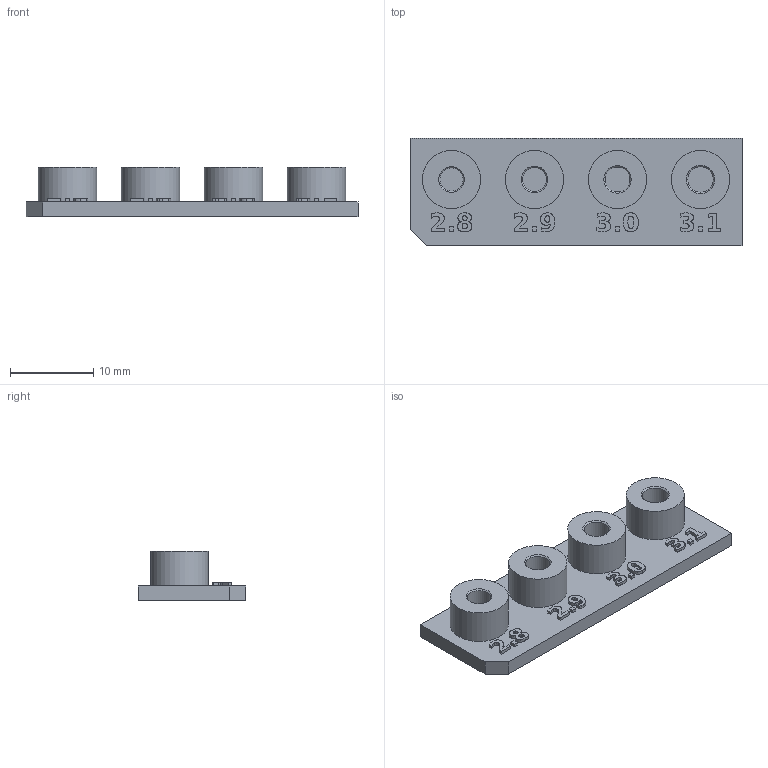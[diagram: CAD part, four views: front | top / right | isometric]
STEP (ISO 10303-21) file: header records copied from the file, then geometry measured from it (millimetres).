
FILE_DESCRIPTION(('FreeCAD Model'),'2;1');
FILE_NAME('Open CASCADE Shape Model','2026-10-22T07:44:03',('FreeCAD'),( 'FreeCAD'),'Open CASCADE STEP processor 7.8','FreeCAD','Unknown');
FILE_SCHEMA(('AUTOMOTIVE_DESIGN { 1 0 10303 214 1 1 1 1 }'));
Length unit declared in the file: millimetre
Products named in the file (1): Open CASCADE STEP translator 7.8 1
Bounding box: 40 x 13 x 6 mm (x, y, z)
Volume: 1487.4 mm3; surface area: 1760.3 mm2
Topology: 1 solids, 1 shells, 239 faces, 635 edges, 422 vertices
Faces by surface type: extrusion 144, plane 83, cylinder 8, cone 4
Full cylindrical faces by diameter (mm): 2.8 x1, 2.9 x1, 3 x1, 3.1 x1, 7 x4
Entity records: 8326 total; most frequent: CARTESIAN_POINT 2912, ORIENTED_EDGE 1270, DIRECTION 703, EDGE_CURVE 635, VECTOR 471, B_SPLINE_CURVE_WITH_KNOTS 432, VERTEX_POINT 422, LINE 327
